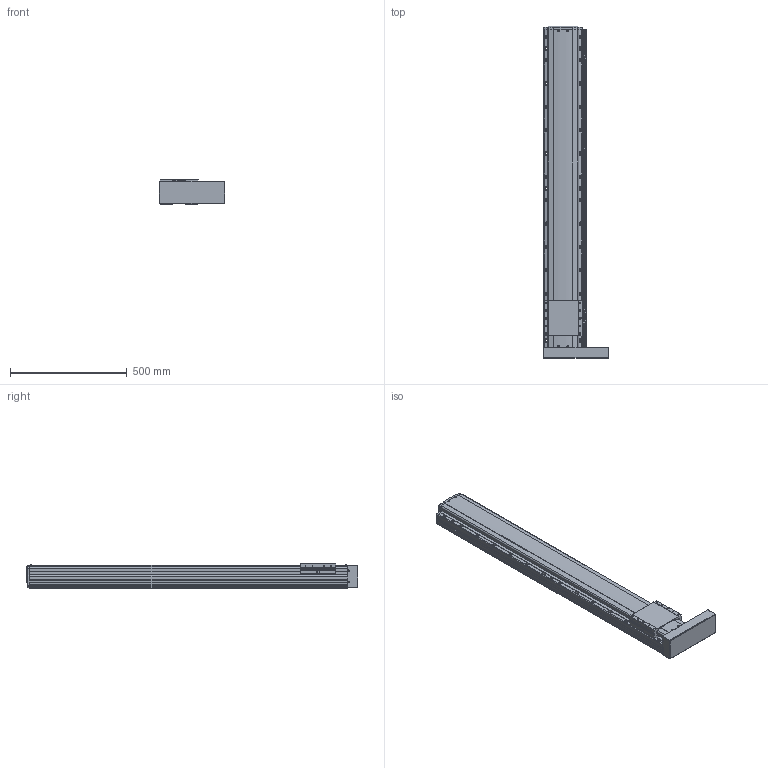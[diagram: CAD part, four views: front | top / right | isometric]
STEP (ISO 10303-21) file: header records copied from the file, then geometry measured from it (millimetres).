
FILE_DESCRIPTION(('STEP AP214'),'1');
FILE_NAME('Z:/Web/3D/PSA165/STP/PSA165-1100 (3D)/PSA165ㅁㅁ-1100PR+3SR.stp','2014-06-24T10:29:33',(' '),(' '),'Spatial InterOp 3D',' ',' ');
FILE_SCHEMA(('automotive_design'));
Length unit declared in the file: millimetre
Products named in the file (41): 스크루 : Round - M4.0 x 12.0; RRCV-PA160; BASE; 스크루 : Round - M4.0 x 10.0; RN15; Screw 20; SLIDE; FRCV; MTPL; 스크루 : Round - M3.0 x 6.0; M3.0 x 6.0; SRL-16x17-360L; SGD-SAN150; EE-SX674; SBK-SX674-352; BHCS M4.0 x 10.0
Bounding box: 281.93 x 1420.8 x 104 mm (x, y, z)
Volume: 20199727.6 mm3; surface area: 1383069.8 mm2
Topology: 41 solids, 41 shells, 2624 faces, 7041 edges, 4513 vertices
Faces by surface type: plane 1467, cylinder 819, cone 233, sphere 64, bspline 25, torus 16
Entity records: 106573 total; most frequent: CARTESIAN_POINT 18533, DIRECTION 14019, ORIENTED_EDGE 13758, EDGE_CURVE 6879, AXIS2_PLACEMENT_3D 4733, LINE 4553, VECTOR 4553, VERTEX_POINT 4513
